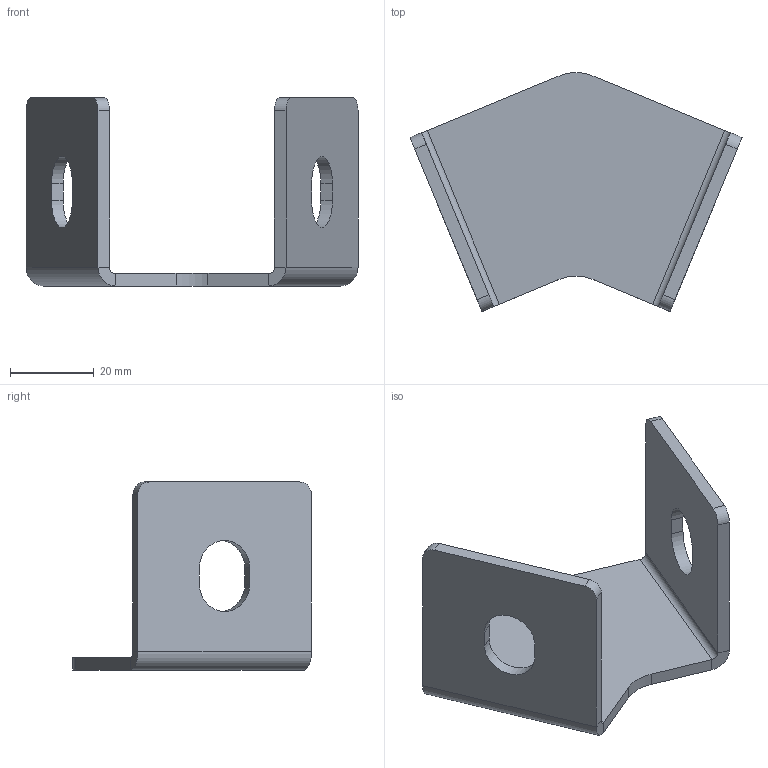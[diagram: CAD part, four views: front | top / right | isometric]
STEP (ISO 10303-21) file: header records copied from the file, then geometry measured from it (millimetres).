
FILE_DESCRIPTION (( 'STEP AP214' ), '1' );
FILE_NAME ('454545.STEP', '2018-03-04T10:39:04', ( '' ), ( '' ), 'SwSTEP 2.0', 'SolidWorks 2014', '' );
FILE_SCHEMA (( 'AUTOMOTIVE_DESIGN' ));
Length unit declared in the file: millimetre
Products named in the file (2): 454545
Bounding box: 79.44 x 57.17 x 45 mm (x, y, z)
Volume: 18952.7 mm3; surface area: 14072.7 mm2
Topology: 1 solids, 1 shells, 38 faces, 92 edges, 56 vertices
Faces by surface type: plane 24, cylinder 14
Entity records: 1153 total; most frequent: DIRECTION 200, CARTESIAN_POINT 188, ORIENTED_EDGE 184, EDGE_CURVE 92, AXIS2_PLACEMENT_3D 68, VECTOR 64, LINE 64, VERTEX_POINT 56
